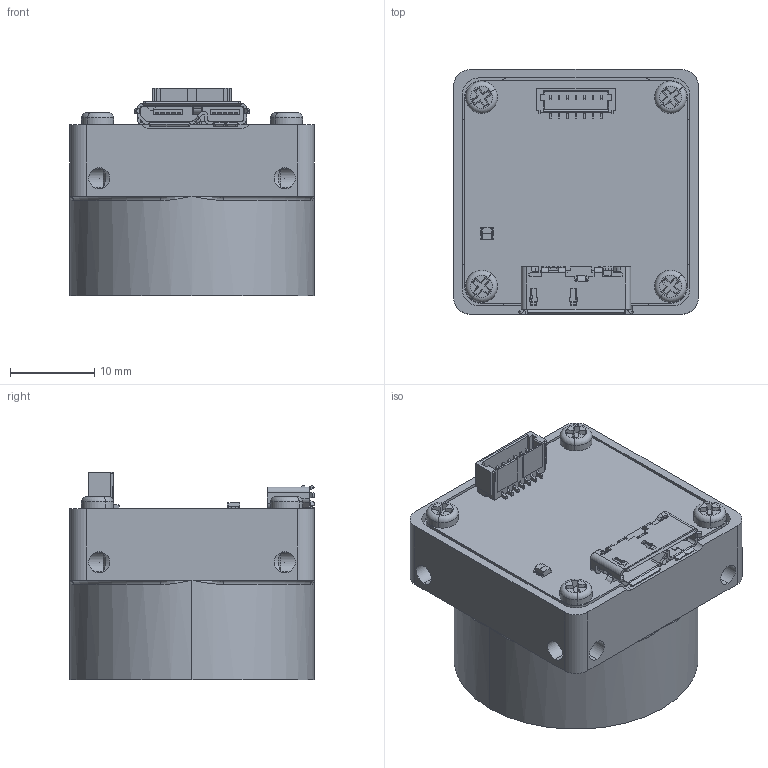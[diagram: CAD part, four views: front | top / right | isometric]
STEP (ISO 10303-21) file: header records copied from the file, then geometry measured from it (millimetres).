
FILE_DESCRIPTION (( 'STEP AP214' ), '1' );
FILE_NAME ('Aria_Cmount.STEP', '2020-07-14T10:08:54', ( '' ), ( '' ), 'SwSTEP 2.0', 'SolidWorks 2019', '' );
FILE_SCHEMA (( 'AUTOMOTIVE_DESIGN' ));
Length unit declared in the file: millimetre
Products named in the file (6): Guarnizione; Aria_Cmount; Filtro; ariasn; C-mount; Vite_M2_M2x3
Assembly tree (8 placements, depth 2):
  Aria_Cmount
    C-mount
    Filtro
    Guarnizione
    Vite_M2_M2x3  x4
    ariasn
Bounding box: 29 x 29 x 24.57 mm (x, y, z)
Volume: 6354.2 mm3; surface area: 9896.3 mm2
Topology: 23 solids, 23 shells, 1801 faces, 4624 edges, 2972 vertices
Faces by surface type: plane 1007, cylinder 652, cone 106, torus 20, bspline 16
Entity records: 71793 total; most frequent: CARTESIAN_POINT 11754, DIRECTION 8886, ORIENTED_EDGE 8824, EDGE_CURVE 4412, AXIS2_PLACEMENT_3D 2993, LINE 2900, VECTOR 2900, VERTEX_POINT 2864
